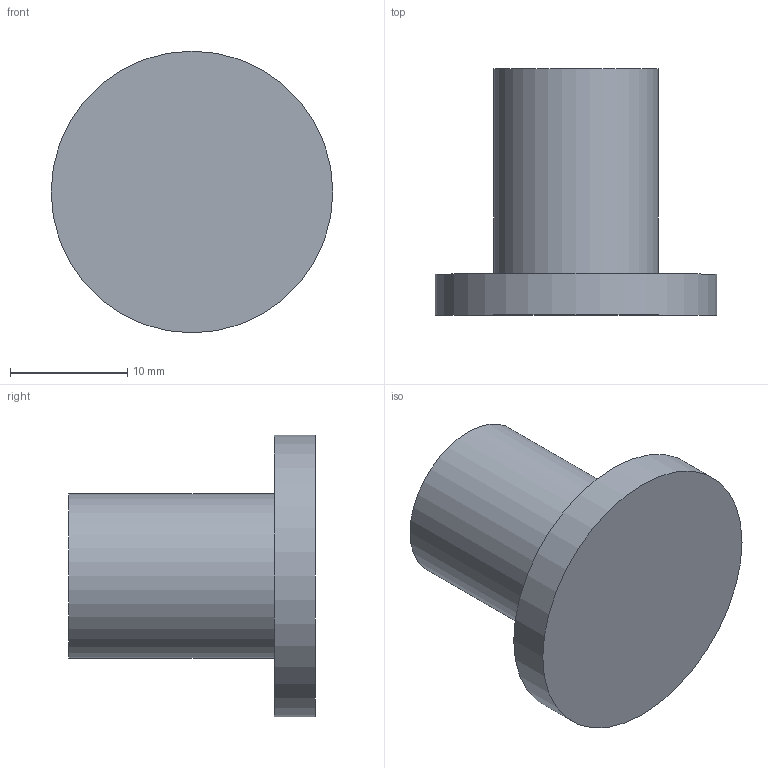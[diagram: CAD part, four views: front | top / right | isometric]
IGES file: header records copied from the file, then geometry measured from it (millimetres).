
Start section: Data from Parasolid IGES Translator 20.0.26, Copyright(c) 2006 Siemens P LM Software. All Rights Reserved.
Global section: file name: 9266561.igs; native system: By Siemens PLM Incorporated; preprocessor: XPlus GENERIC/IGES 20.0.26; author: Noname; organization: Noname; date: 20200630.120209; units: millimetre
Bounding box: 24 x 21 x 24 mm (x, y, z)
Surface area: 2020.3 mm2 (no closed solid volume)
Topology: 0 solids, 0 shells, 7 faces, 18 edges, 12 vertices
Faces by surface type: extrusion 4, revolution 3
